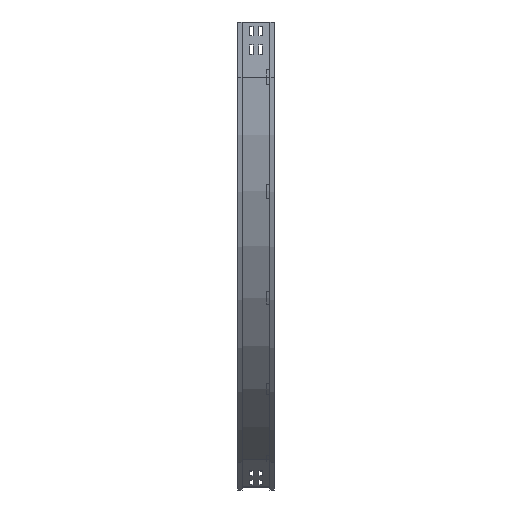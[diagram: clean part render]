
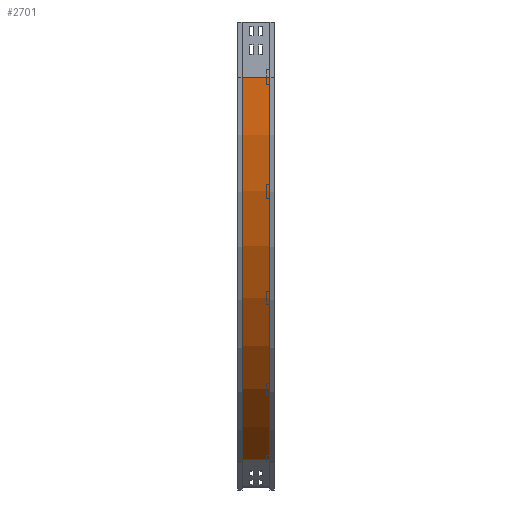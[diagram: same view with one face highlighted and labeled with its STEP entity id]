
A CAD part, left-side view. The second image highlights one B-rep face of the part: STEP entity #2701.
In plain terms, the highlighted cylindrical face has radius 1200 mm (diameter 2400 mm), a partial arc.
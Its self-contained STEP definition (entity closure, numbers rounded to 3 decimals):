
#11 = CARTESIAN_POINT ( 'NONE',  ( 1209., 0., -150. ) ) ;
#72 = DIRECTION ( 'NONE',  ( 0., -1., 0. ) ) ;
#121 = VECTOR ( 'NONE', #1758, 1000. ) ;
#191 = ORIENTED_EDGE ( 'NONE', *, *, #1532, .F. ) ;
#201 = CARTESIAN_POINT ( 'NONE',  ( 609., 12., -1189.23 ) ) ;
#202 = VERTEX_POINT ( 'NONE', #2138 ) ;
#249 = CARTESIAN_POINT ( 'NONE',  ( 1209., 88., -150. ) ) ;
#426 = AXIS2_PLACEMENT_3D ( 'NONE', #1496, #72, #4230 ) ;
#595 = DIRECTION ( 'NONE',  ( 0., -1., 0. ) ) ;
#715 = CIRCLE ( 'NONE', #426, 1200. ) ;
#879 = VERTEX_POINT ( 'NONE', #1040 ) ;
#935 = DIRECTION ( 'NONE',  ( -1., 0., 0. ) ) ;
#1040 = CARTESIAN_POINT ( 'NONE',  ( 9., 88., -150. ) ) ;
#1392 = AXIS2_PLACEMENT_3D ( 'NONE', #11, #4518, #3498 ) ;
#1496 = CARTESIAN_POINT ( 'NONE',  ( 1209., 12., -150. ) ) ;
#1532 = EDGE_CURVE ( 'NONE', #879, #2131, #3817, .T. ) ;
#1615 = EDGE_LOOP ( 'NONE', ( #4330, #191, #2685, #2119 ) ) ;
#1758 = DIRECTION ( 'NONE',  ( 0., -1., 0. ) ) ;
#2108 = CARTESIAN_POINT ( 'NONE',  ( 9., 12., -150. ) ) ;
#2119 = ORIENTED_EDGE ( 'NONE', *, *, #3578, .T. ) ;
#2131 = VERTEX_POINT ( 'NONE', #2108 ) ;
#2138 = CARTESIAN_POINT ( 'NONE',  ( 609., 12., -1189.23 ) ) ;
#2193 = DIRECTION ( 'NONE',  ( 0., -1., 0. ) ) ;
#2559 = EDGE_CURVE ( 'NONE', #879, #3166, #3715, .T. ) ;
#2630 = LINE ( 'NONE', #201, #2820 ) ;
#2685 = ORIENTED_EDGE ( 'NONE', *, *, #2559, .T. ) ;
#2701 = ADVANCED_FACE ( 'NONE', ( #4150 ), #4472, .T. ) ;
#2820 = VECTOR ( 'NONE', #2193, 1000. ) ;
#3166 = VERTEX_POINT ( 'NONE', #4243 ) ;
#3498 = DIRECTION ( 'NONE',  ( 0., 0., -1. ) ) ;
#3578 = EDGE_CURVE ( 'NONE', #3166, #202, #2630, .T. ) ;
#3715 = CIRCLE ( 'NONE', #3786, 1200. ) ;
#3786 = AXIS2_PLACEMENT_3D ( 'NONE', #249, #595, #935 ) ;
#3817 = LINE ( 'NONE', #4189, #121 ) ;
#4150 = FACE_OUTER_BOUND ( 'NONE', #1615, .T. ) ;
#4165 = EDGE_CURVE ( 'NONE', #2131, #202, #715, .T. ) ;
#4189 = CARTESIAN_POINT ( 'NONE',  ( 9., 12., -150. ) ) ;
#4230 = DIRECTION ( 'NONE',  ( -1., 0., 0. ) ) ;
#4243 = CARTESIAN_POINT ( 'NONE',  ( 609., 88., -1189.23 ) ) ;
#4330 = ORIENTED_EDGE ( 'NONE', *, *, #4165, .F. ) ;
#4472 = CYLINDRICAL_SURFACE ( 'NONE', #1392, 1200. ) ;
#4518 = DIRECTION ( 'NONE',  ( 0., -1., 0. ) ) ;
